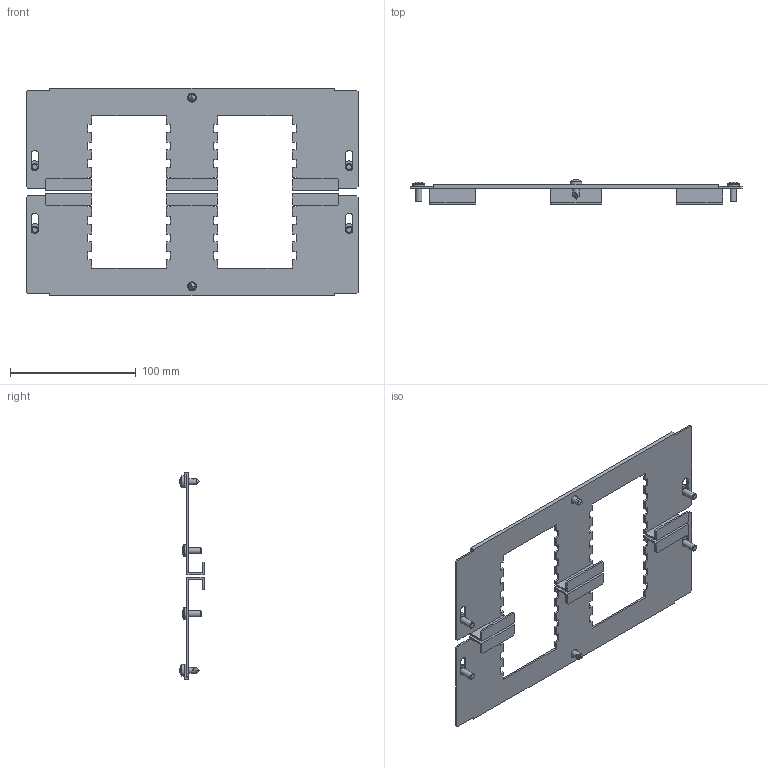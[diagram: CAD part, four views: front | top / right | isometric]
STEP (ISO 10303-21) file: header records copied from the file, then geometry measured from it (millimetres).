
FILE_DESCRIPTION(('Open CASCADE Model'),'2;1');
FILE_NAME('Open CASCADE Shape Model','2025-02-21T14:48:42',('Author'),( 'Open CASCADE'),'Open CASCADE STEP processor 7.8','Open CASCADE 7.8' ,'Unknown');
FILE_SCHEMA(('AUTOMOTIVE_DESIGN { 1 0 10303 214 1 1 1 1 }'));
Length unit declared in the file: millimetre
Products named in the file (4): Compound1; Solid1; Solid2; Solid3
Assembly tree (8 placements, depth 2):
  Compound1
    Solid1  x2
    Solid2  x2
    Solid3  x4
Bounding box: 264 x 19.31 x 165 mm (x, y, z)
Volume: 59552.2 mm3; surface area: 82421.7 mm2
Topology: 8 solids, 8 shells, 386 faces, 1038 edges, 666 vertices
Faces by surface type: plane 320, cylinder 24, cone 14, torus 12, sphere 10, bspline 6
Full cylindrical faces by diameter (mm): 4.8 x2, 5 x4, 6 x2, 7 x2, 9.5 x6
Entity records: 6325 total; most frequent: CARTESIAN_POINT 1778, ORIENTED_EDGE 966, DIRECTION 859, EDGE_CURVE 483, LINE 405, VECTOR 405, VERTEX_POINT 316, AXIS2_PLACEMENT_3D 227
